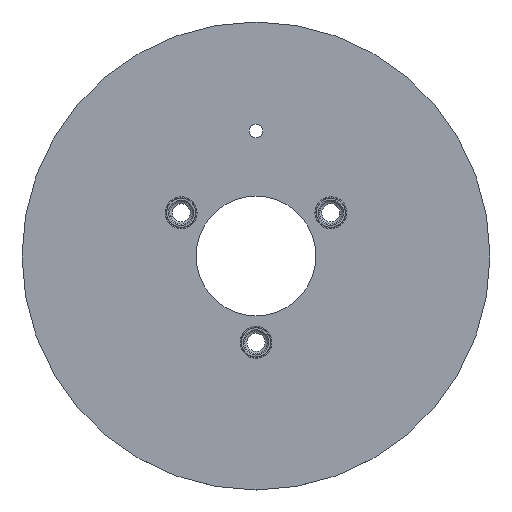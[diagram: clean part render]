
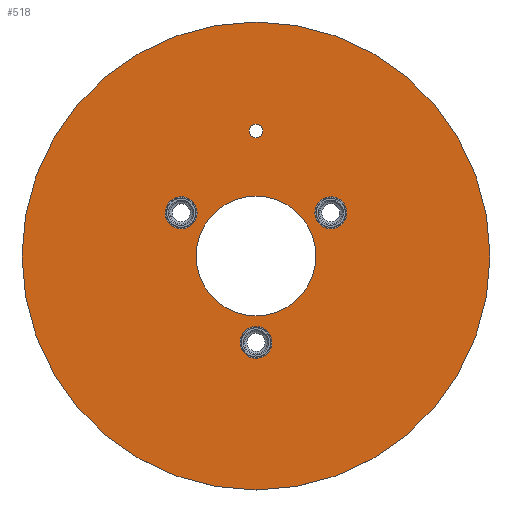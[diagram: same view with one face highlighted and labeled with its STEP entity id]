
A CAD part, top view. The second image highlights one B-rep face of the part: STEP entity #518.
In plain terms, the highlighted planar face has unit normal (0, 0, 1) as drawn and (0, -1, 0) by its records, which use the part's own axes.
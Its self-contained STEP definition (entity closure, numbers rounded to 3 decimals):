
#3 = EDGE_CURVE ( 'NONE', #313, #154, #727, .T. ) ;
#86 = DIRECTION ( 'NONE',  ( 0., 0., 1. ) ) ;
#102 = DIRECTION ( 'NONE',  ( 0., 0., 1. ) ) ;
#126 = EDGE_CURVE ( 'NONE', #1139, #1654, #605, .T. ) ;
#138 = CIRCLE ( 'NONE', #573, 5.5 ) ;
#152 = EDGE_CURVE ( 'NONE', #354, #818, #234, .T. ) ;
#154 = VERTEX_POINT ( 'NONE', #257 ) ;
#160 = EDGE_CURVE ( 'NONE', #1554, #1075, #668, .T. ) ;
#187 = ORIENTED_EDGE ( 'NONE', *, *, #1775, .T. ) ;
#188 = PLANE ( 'NONE',  #1587 ) ;
#197 = FACE_BOUND ( 'NONE', #852, .T. ) ;
#200 = ORIENTED_EDGE ( 'NONE', *, *, #3, .F. ) ;
#208 = FACE_BOUND ( 'NONE', #1439, .T. ) ;
#226 = ORIENTED_EDGE ( 'NONE', *, *, #386, .F. ) ;
#229 = EDGE_LOOP ( 'NONE', ( #226, #200 ) ) ;
#234 = CIRCLE ( 'NONE', #701, 5.5 ) ;
#250 = DIRECTION ( 'NONE',  ( 0., 1., 0. ) ) ;
#257 = CARTESIAN_POINT ( 'NONE',  ( 0., -2.5, 88. ) ) ;
#267 = CIRCLE ( 'NONE', #456, 22.5 ) ;
#280 = EDGE_CURVE ( 'NONE', #818, #354, #138, .T. ) ;
#292 = AXIS2_PLACEMENT_3D ( 'NONE', #1038, #869, #1760 ) ;
#296 = CIRCLE ( 'NONE', #703, 5.5 ) ;
#313 = VERTEX_POINT ( 'NONE', #588 ) ;
#343 = CARTESIAN_POINT ( 'NONE',  ( 0., -2.5, 0. ) ) ;
#354 = VERTEX_POINT ( 'NONE', #1314 ) ;
#378 = EDGE_CURVE ( 'NONE', #510, #1324, #1707, .T. ) ;
#380 = CARTESIAN_POINT ( 'NONE',  ( 0., -2.5, 27. ) ) ;
#386 = EDGE_CURVE ( 'NONE', #154, #313, #1364, .T. ) ;
#390 = CIRCLE ( 'NONE', #702, 2.5 ) ;
#397 = CARTESIAN_POINT ( 'NONE',  ( -28.146, -2.5, -16.25 ) ) ;
#407 = CARTESIAN_POINT ( 'NONE',  ( 28.146, -2.5, -16.25 ) ) ;
#408 = DIRECTION ( 'NONE',  ( 0., 0., 1. ) ) ;
#426 = DIRECTION ( 'NONE',  ( 0., 1., 0. ) ) ;
#443 = ORIENTED_EDGE ( 'NONE', *, *, #1067, .T. ) ;
#445 = ORIENTED_EDGE ( 'NONE', *, *, #160, .T. ) ;
#456 = AXIS2_PLACEMENT_3D ( 'NONE', #591, #1202, #1473 ) ;
#471 = FACE_BOUND ( 'NONE', #1426, .T. ) ;
#510 = VERTEX_POINT ( 'NONE', #653 ) ;
#518 = ADVANCED_FACE ( 'NONE', ( #471, #1380, #1535, #197, #208, #1359 ), #188, .F. ) ;
#541 = EDGE_CURVE ( 'NONE', #1324, #510, #390, .T. ) ;
#551 = DIRECTION ( 'NONE',  ( 0., 0., 1. ) ) ;
#564 = EDGE_CURVE ( 'NONE', #1075, #1554, #759, .T. ) ;
#573 = AXIS2_PLACEMENT_3D ( 'NONE', #1740, #1547, #86 ) ;
#588 = CARTESIAN_POINT ( 'NONE',  ( 0., -2.5, -88. ) ) ;
#591 = CARTESIAN_POINT ( 'NONE',  ( 0., -2.5, 0. ) ) ;
#595 = ORIENTED_EDGE ( 'NONE', *, *, #378, .T. ) ;
#602 = CARTESIAN_POINT ( 'NONE',  ( 0., -2.5, 22.5 ) ) ;
#605 = CIRCLE ( 'NONE', #1520, 5.5 ) ;
#620 = ORIENTED_EDGE ( 'NONE', *, *, #152, .T. ) ;
#633 = DIRECTION ( 'NONE',  ( 0., 1., 0. ) ) ;
#653 = CARTESIAN_POINT ( 'NONE',  ( 0., -2.5, -44.5 ) ) ;
#666 = DIRECTION ( 'NONE',  ( 0., 0., 1. ) ) ;
#668 = CIRCLE ( 'NONE', #757, 5.5 ) ;
#701 = AXIS2_PLACEMENT_3D ( 'NONE', #397, #834, #1420 ) ;
#702 = AXIS2_PLACEMENT_3D ( 'NONE', #1816, #943, #1679 ) ;
#703 = AXIS2_PLACEMENT_3D ( 'NONE', #1786, #952, #1550 ) ;
#727 = CIRCLE ( 'NONE', #1003, 88. ) ;
#757 = AXIS2_PLACEMENT_3D ( 'NONE', #1427, #426, #102 ) ;
#759 = CIRCLE ( 'NONE', #1804, 5.5 ) ;
#818 = VERTEX_POINT ( 'NONE', #1416 ) ;
#834 = DIRECTION ( 'NONE',  ( 0., 1., 0. ) ) ;
#849 = DIRECTION ( 'NONE',  ( 0., 1., 0. ) ) ;
#852 = EDGE_LOOP ( 'NONE', ( #445, #1546 ) ) ;
#868 = VERTEX_POINT ( 'NONE', #602 ) ;
#869 = DIRECTION ( 'NONE',  ( 0., 1., 0. ) ) ;
#921 = CARTESIAN_POINT ( 'NONE',  ( 0., -2.5, 38. ) ) ;
#928 = ORIENTED_EDGE ( 'NONE', *, *, #126, .T. ) ;
#943 = DIRECTION ( 'NONE',  ( 0., 1., 0. ) ) ;
#952 = DIRECTION ( 'NONE',  ( 0., 1., 0. ) ) ;
#969 = CARTESIAN_POINT ( 'NONE',  ( 28.146, -2.5, -10.75 ) ) ;
#1003 = AXIS2_PLACEMENT_3D ( 'NONE', #1393, #1671, #666 ) ;
#1038 = CARTESIAN_POINT ( 'NONE',  ( 0., -2.5, -47. ) ) ;
#1048 = CARTESIAN_POINT ( 'NONE',  ( 0., -2.5, 0. ) ) ;
#1067 = EDGE_CURVE ( 'NONE', #1654, #1139, #296, .T. ) ;
#1075 = VERTEX_POINT ( 'NONE', #380 ) ;
#1139 = VERTEX_POINT ( 'NONE', #1840 ) ;
#1142 = CARTESIAN_POINT ( 'NONE',  ( 0., -2.5, -49.5 ) ) ;
#1202 = DIRECTION ( 'NONE',  ( 0., 1., 0. ) ) ;
#1314 = CARTESIAN_POINT ( 'NONE',  ( -28.146, -2.5, -10.75 ) ) ;
#1324 = VERTEX_POINT ( 'NONE', #1142 ) ;
#1330 = VERTEX_POINT ( 'NONE', #1451 ) ;
#1337 = ORIENTED_EDGE ( 'NONE', *, *, #1398, .T. ) ;
#1359 = FACE_OUTER_BOUND ( 'NONE', #229, .T. ) ;
#1364 = CIRCLE ( 'NONE', #1492, 88. ) ;
#1380 = FACE_BOUND ( 'NONE', #1639, .T. ) ;
#1393 = CARTESIAN_POINT ( 'NONE',  ( 0., -2.5, 0. ) ) ;
#1397 = ORIENTED_EDGE ( 'NONE', *, *, #541, .T. ) ;
#1398 = EDGE_CURVE ( 'NONE', #868, #1330, #267, .T. ) ;
#1416 = CARTESIAN_POINT ( 'NONE',  ( -28.146, -2.5, -21.75 ) ) ;
#1420 = DIRECTION ( 'NONE',  ( 0., 0., 1. ) ) ;
#1426 = EDGE_LOOP ( 'NONE', ( #595, #1397 ) ) ;
#1427 = CARTESIAN_POINT ( 'NONE',  ( 0., -2.5, 32.5 ) ) ;
#1439 = EDGE_LOOP ( 'NONE', ( #1337, #187 ) ) ;
#1451 = CARTESIAN_POINT ( 'NONE',  ( 0., -2.5, -22.5 ) ) ;
#1473 = DIRECTION ( 'NONE',  ( 0., 0., 1. ) ) ;
#1492 = AXIS2_PLACEMENT_3D ( 'NONE', #1048, #1612, #1782 ) ;
#1514 = DIRECTION ( 'NONE',  ( 0., 1., 0. ) ) ;
#1517 = ORIENTED_EDGE ( 'NONE', *, *, #280, .T. ) ;
#1520 = AXIS2_PLACEMENT_3D ( 'NONE', #407, #849, #551 ) ;
#1530 = CIRCLE ( 'NONE', #1778, 22.5 ) ;
#1535 = FACE_BOUND ( 'NONE', #1806, .T. ) ;
#1546 = ORIENTED_EDGE ( 'NONE', *, *, #564, .T. ) ;
#1547 = DIRECTION ( 'NONE',  ( 0., 1., 0. ) ) ;
#1550 = DIRECTION ( 'NONE',  ( 0., 0., 1. ) ) ;
#1554 = VERTEX_POINT ( 'NONE', #921 ) ;
#1570 = CARTESIAN_POINT ( 'NONE',  ( 0., -2.5, 0. ) ) ;
#1587 = AXIS2_PLACEMENT_3D ( 'NONE', #343, #633, #1825 ) ;
#1612 = DIRECTION ( 'NONE',  ( 0., 1., 0. ) ) ;
#1639 = EDGE_LOOP ( 'NONE', ( #443, #928 ) ) ;
#1641 = CARTESIAN_POINT ( 'NONE',  ( 0., -2.5, 32.5 ) ) ;
#1654 = VERTEX_POINT ( 'NONE', #969 ) ;
#1671 = DIRECTION ( 'NONE',  ( 0., 1., 0. ) ) ;
#1679 = DIRECTION ( 'NONE',  ( 0., 0., 1. ) ) ;
#1707 = CIRCLE ( 'NONE', #292, 2.5 ) ;
#1740 = CARTESIAN_POINT ( 'NONE',  ( -28.146, -2.5, -16.25 ) ) ;
#1760 = DIRECTION ( 'NONE',  ( 0., 0., 1. ) ) ;
#1775 = EDGE_CURVE ( 'NONE', #1330, #868, #1530, .T. ) ;
#1778 = AXIS2_PLACEMENT_3D ( 'NONE', #1570, #250, #408 ) ;
#1782 = DIRECTION ( 'NONE',  ( 0., 0., 1. ) ) ;
#1786 = CARTESIAN_POINT ( 'NONE',  ( 28.146, -2.5, -16.25 ) ) ;
#1804 = AXIS2_PLACEMENT_3D ( 'NONE', #1641, #1514, #1808 ) ;
#1806 = EDGE_LOOP ( 'NONE', ( #620, #1517 ) ) ;
#1808 = DIRECTION ( 'NONE',  ( 0., 0., 1. ) ) ;
#1816 = CARTESIAN_POINT ( 'NONE',  ( 0., -2.5, -47. ) ) ;
#1825 = DIRECTION ( 'NONE',  ( 0., 0., 1. ) ) ;
#1840 = CARTESIAN_POINT ( 'NONE',  ( 28.146, -2.5, -21.75 ) ) ;
